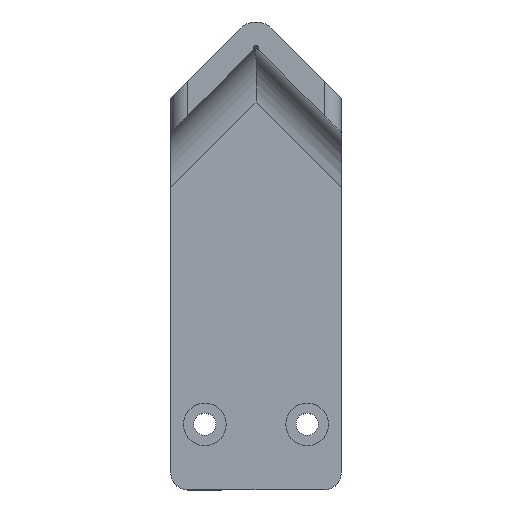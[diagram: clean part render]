
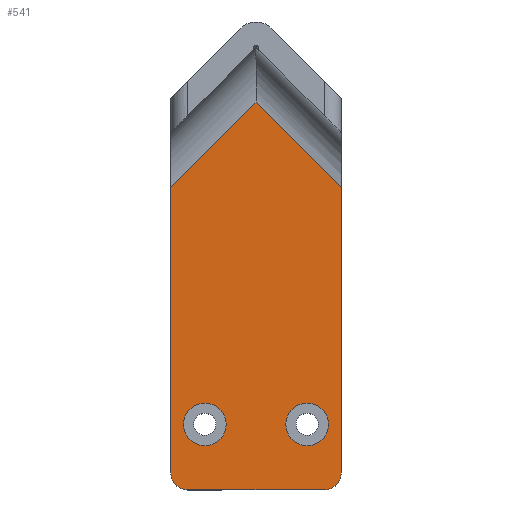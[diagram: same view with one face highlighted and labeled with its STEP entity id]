
A CAD part, top view. The second image highlights one B-rep face of the part: STEP entity #541.
In plain terms, the highlighted planar face has unit normal (0, 0, 1).
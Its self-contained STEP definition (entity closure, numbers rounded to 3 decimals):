
#18=FACE_BOUND('',#188,.T.);
#19=FACE_BOUND('',#189,.T.);
#36=PLANE('',#602);
#64=LINE('',#1087,#105);
#66=LINE('',#1096,#107);
#67=LINE('',#1101,#108);
#68=LINE('',#1104,#109);
#69=LINE('',#1107,#110);
#105=VECTOR('',#697,10.);
#107=VECTOR('',#709,10.);
#108=VECTOR('',#716,10.);
#109=VECTOR('',#719,10.);
#110=VECTOR('',#722,1000.);
#155=FACE_OUTER_BOUND('',#187,.T.);
#187=EDGE_LOOP('',(#443,#444,#445,#446,#447,#448,#449));
#188=EDGE_LOOP('',(#450));
#189=EDGE_LOOP('',(#451));
#218=CIRCLE('',#590,2.);
#220=CIRCLE('',#603,2.);
#221=CIRCLE('',#604,2.5);
#222=CIRCLE('',#605,2.5);
#263=VERTEX_POINT('',#1072);
#264=VERTEX_POINT('',#1074);
#268=VERTEX_POINT('',#1085);
#270=VERTEX_POINT('',#1095);
#271=VERTEX_POINT('',#1099);
#272=VERTEX_POINT('',#1103);
#273=VERTEX_POINT('',#1105);
#274=VERTEX_POINT('',#1108);
#275=VERTEX_POINT('',#1110);
#321=EDGE_CURVE('',#264,#263,#218,.T.);
#328=EDGE_CURVE('',#268,#263,#64,.T.);
#332=EDGE_CURVE('',#270,#268,#66,.T.);
#335=EDGE_CURVE('',#271,#270,#67,.T.);
#336=EDGE_CURVE('',#272,#271,#68,.T.);
#337=EDGE_CURVE('',#272,#273,#220,.T.);
#338=EDGE_CURVE('',#264,#273,#69,.T.);
#339=EDGE_CURVE('',#274,#274,#221,.T.);
#340=EDGE_CURVE('',#275,#275,#222,.T.);
#443=ORIENTED_EDGE('',*,*,#332,.F.);
#444=ORIENTED_EDGE('',*,*,#335,.F.);
#445=ORIENTED_EDGE('',*,*,#336,.F.);
#446=ORIENTED_EDGE('',*,*,#337,.T.);
#447=ORIENTED_EDGE('',*,*,#338,.F.);
#448=ORIENTED_EDGE('',*,*,#321,.T.);
#449=ORIENTED_EDGE('',*,*,#328,.F.);
#450=ORIENTED_EDGE('',*,*,#339,.F.);
#451=ORIENTED_EDGE('',*,*,#340,.F.);
#541=ADVANCED_FACE('',(#155,#18,#19),#36,.T.);
#590=AXIS2_PLACEMENT_3D('',#1075,#685,#686);
#602=AXIS2_PLACEMENT_3D('',#1102,#717,#718);
#603=AXIS2_PLACEMENT_3D('',#1106,#720,#721);
#604=AXIS2_PLACEMENT_3D('',#1109,#723,#724);
#605=AXIS2_PLACEMENT_3D('',#1111,#725,#726);
#685=DIRECTION('center_axis',(0.,0.,
1.));
#686=DIRECTION('ref_axis',(0.,-1.,0.));
#697=DIRECTION('',(0.,-1.,0.));
#709=DIRECTION('',(0.707,-0.707,0.));
#716=DIRECTION('',(0.707,0.707,0.));
#717=DIRECTION('center_axis',(0.,0.,
1.));
#718=DIRECTION('ref_axis',(0.,-1.,0.));
#719=DIRECTION('',(0.,1.,0.));
#720=DIRECTION('center_axis',(0.,0.,
1.));
#721=DIRECTION('ref_axis',(0.,-1.,0.));
#722=DIRECTION('',(-1.,0.,0.));
#723=DIRECTION('center_axis',(0.,0.,
1.));
#724=DIRECTION('ref_axis',(0.,-1.,0.));
#725=DIRECTION('center_axis',(0.,0.,
1.));
#726=DIRECTION('ref_axis',(0.,-1.,0.));
#1072=CARTESIAN_POINT('',(170.,10.1,61.1));
#1074=CARTESIAN_POINT('',(168.,8.1,61.1));
#1075=CARTESIAN_POINT('Origin',(168.,10.1,61.1));
#1085=CARTESIAN_POINT('',(170.,43.636,61.1));
#1087=CARTESIAN_POINT('',(170.,17.3,61.1));
#1095=CARTESIAN_POINT('',(160.,53.636,61.1));
#1096=CARTESIAN_POINT('',(172.993,40.643,61.1));
#1099=CARTESIAN_POINT('',(150.,43.636,61.1));
#1101=CARTESIAN_POINT('',(152.007,45.643,61.1));
#1102=CARTESIAN_POINT('Origin',(160.,15.3,61.1));
#1103=CARTESIAN_POINT('',(150.,10.1,61.1));
#1104=CARTESIAN_POINT('',(150.,32.65,61.1));
#1105=CARTESIAN_POINT('',(152.,8.1,61.1));
#1106=CARTESIAN_POINT('Origin',(152.,10.1,61.1));
#1107=CARTESIAN_POINT('',(160.,8.1,61.1));
#1108=CARTESIAN_POINT('',(166.,18.3,61.1));
#1109=CARTESIAN_POINT('Origin',(166.,15.8,61.1));
#1110=CARTESIAN_POINT('',(154.,18.3,61.1));
#1111=CARTESIAN_POINT('Origin',(154.,15.8,61.1));
